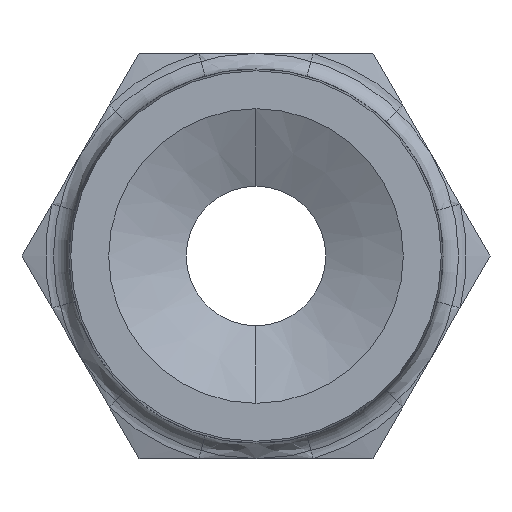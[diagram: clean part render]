
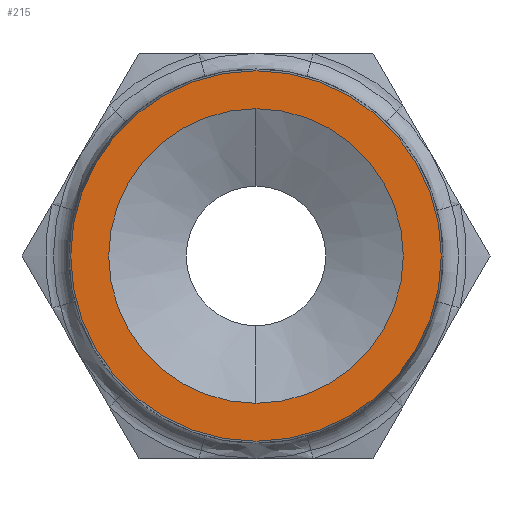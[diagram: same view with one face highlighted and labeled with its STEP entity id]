
A CAD part, left-side view. The second image highlights one B-rep face of the part: STEP entity #215.
In plain terms, the highlighted planar face has unit normal (-1, 0, 0).
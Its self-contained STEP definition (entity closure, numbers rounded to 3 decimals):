
#66 = EDGE_CURVE ( 'NONE', #67, #68, #835, .T. ) ;
#67 = VERTEX_POINT ( 'NONE', #819 ) ;
#68 = VERTEX_POINT ( 'NONE', #818 ) ;
#77 = VERTEX_POINT ( 'NONE', #803 ) ;
#79 = EDGE_CURVE ( 'NONE', #77, #80, #772, .T. ) ;
#80 = VERTEX_POINT ( 'NONE', #767 ) ;
#203 = ORIENTED_EDGE ( 'NONE', *, *, #79, .F. ) ;
#215 = ADVANCED_FACE ( 'NONE', ( #2529, #2528 ), #2486, .T. ) ;
#216 = EDGE_LOOP ( 'NONE', ( #217, #219 ) ) ;
#217 = ORIENTED_EDGE ( 'NONE', *, *, #218, .T. ) ;
#218 = EDGE_CURVE ( 'NONE', #68, #67, #2487, .T. ) ;
#219 = ORIENTED_EDGE ( 'NONE', *, *, #66, .T. ) ;
#220 = EDGE_LOOP ( 'NONE', ( #221, #203 ) ) ;
#221 = ORIENTED_EDGE ( 'NONE', *, *, #370, .F. ) ;
#370 = EDGE_CURVE ( 'NONE', #80, #77, #1299, .T. ) ;
#767 = CARTESIAN_POINT ( 'NONE',  ( -25.2, 0., 7.5 ) ) ;
#768 = DIRECTION ( 'NONE',  ( 0., 0., 1. ) ) ;
#769 = DIRECTION ( 'NONE',  ( -1., 0., 0. ) ) ;
#770 = CARTESIAN_POINT ( 'NONE',  ( -25.2, 0., 0. ) ) ;
#771 = AXIS2_PLACEMENT_3D ( 'NONE', #770, #769, #768 ) ;
#772 = CIRCLE ( 'NONE', #771, 7.5 ) ;
#803 = CARTESIAN_POINT ( 'NONE',  ( -25.2, 0., -7.5 ) ) ;
#818 = CARTESIAN_POINT ( 'NONE',  ( -25.2, 0., 9.434 ) ) ;
#819 = CARTESIAN_POINT ( 'NONE',  ( -25.2, 0., -9.434 ) ) ;
#820 = DIRECTION ( 'NONE',  ( 0., 0., 1. ) ) ;
#821 = DIRECTION ( 'NONE',  ( -1., 0., 0. ) ) ;
#822 = CARTESIAN_POINT ( 'NONE',  ( -25.2, 0., 0. ) ) ;
#823 = AXIS2_PLACEMENT_3D ( 'NONE', #822, #821, #820 ) ;
#835 = CIRCLE ( 'NONE', #823, 9.434 ) ;
#1299 = CIRCLE ( 'NONE', #1388, 7.5 ) ;
#1300 = CARTESIAN_POINT ( 'NONE',  ( -25.2, 0., 0. ) ) ;
#1386 = DIRECTION ( 'NONE',  ( 0., 0., 1. ) ) ;
#1387 = DIRECTION ( 'NONE',  ( -1., 0., 0. ) ) ;
#1388 = AXIS2_PLACEMENT_3D ( 'NONE', #1300, #1387, #1386 ) ;
#2485 = CARTESIAN_POINT ( 'NONE',  ( -25.2, 0., 0. ) ) ;
#2486 = PLANE ( 'NONE',  #2488 ) ;
#2487 = CIRCLE ( 'NONE', #2524, 9.434 ) ;
#2488 = AXIS2_PLACEMENT_3D ( 'NONE', #2485, #2526, #2525 ) ;
#2521 = DIRECTION ( 'NONE',  ( 0., 0., 1. ) ) ;
#2522 = DIRECTION ( 'NONE',  ( -1., 0., 0. ) ) ;
#2523 = CARTESIAN_POINT ( 'NONE',  ( -25.2, 0., 0. ) ) ;
#2524 = AXIS2_PLACEMENT_3D ( 'NONE', #2523, #2522, #2521 ) ;
#2525 = DIRECTION ( 'NONE',  ( 0., 0., 1. ) ) ;
#2526 = DIRECTION ( 'NONE',  ( -1., 0., 0. ) ) ;
#2528 = FACE_BOUND ( 'NONE', #220, .T. ) ;
#2529 = FACE_OUTER_BOUND ( 'NONE', #216, .T. ) ;
